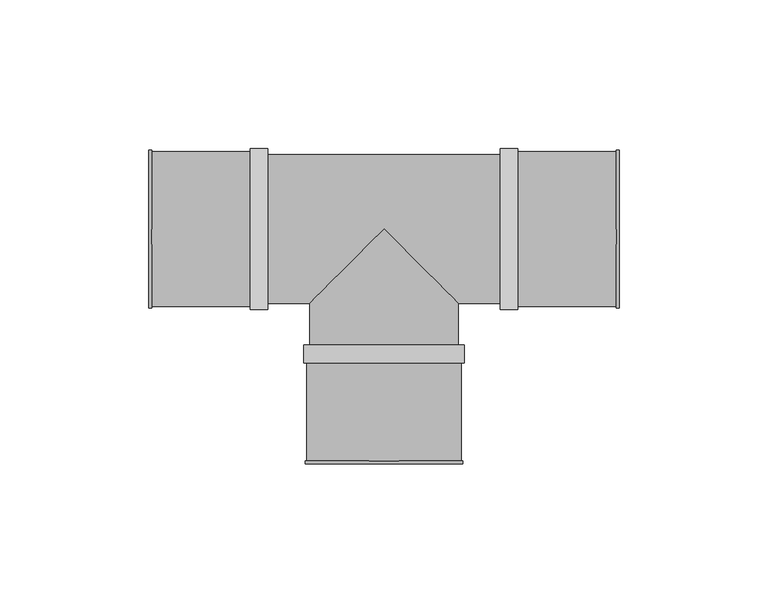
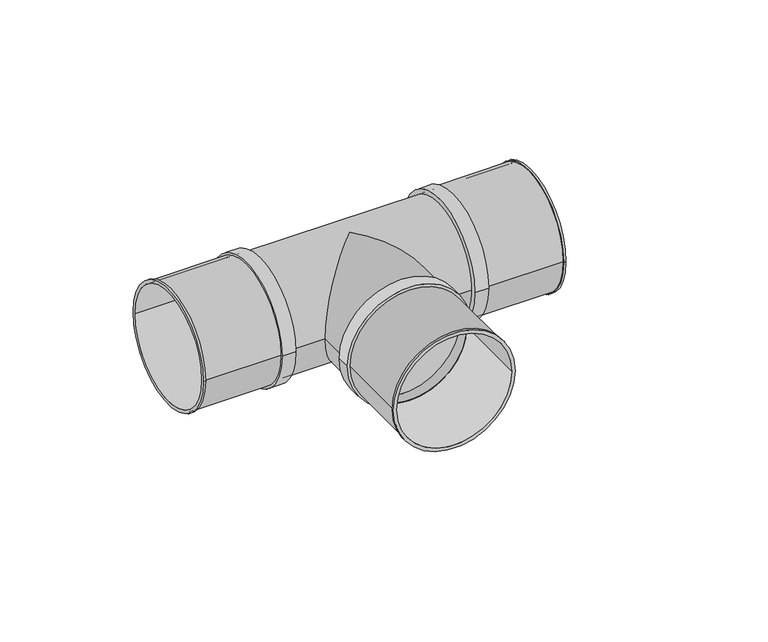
"""IFC4 building model written with IfcOpenShell, lengths in millimetres: pipe fitting geometry, SuperPipe_Tee_SPressPlus : SuperPipe_Tee_SPressPlus."""

from ifc_helpers import new_model, si_unit, point, frame, origin, origin_2d, place, context, project, spatial, polyline, circle_curve, ellipse_curve, trimmed, segment, composite_curve, outline, extrude, source, transform, mapped, element, save
from ifc_brep_helpers import plane_surface, cylinder_surface, revolved_surface, advanced_brep


def pipe_fitting_36832e7d(model_context):
    return source(origin(), model_context, "Body", "SolidModel", [
        advanced_brep(
        [(-79.0, -26.5, 0.0), (-79.0, 26.5, 0.0), (-79.0, -25.0, 0.0), (-79.0, 25.0, 0.0), (-45.0, -26.0, 0.0), (-45.0, 26.0, 0.0), (-45.0, -25.0, 0.0), (-45.0, 25.0, 0.0), (-78.0, -25.0, 0.0), (-78.0, 25.0, 0.0), (-78.0, 26.0, 0.0), (-78.0, -26.0, 0.0), (-78.0, -26.5, 0.0), (-78.0, 26.5, 0.0)],
        [
            (0, 1, circle_curve(frame((-79.0, 0.0, 0.0), z_axis=(-1.0, 0.0, 0.0), x_axis=(0.0, 1.0, 0.0)), 26.5)),
            (1, 0, circle_curve(frame((-79.0, 0.0, 0.0), z_axis=(-1.0, 0.0, 0.0), x_axis=(0.0, 1.0, 0.0)), 26.5)),
            (2, 3, circle_curve(frame((-79.0, 0.0, 0.0), z_axis=(1.0, 0.0, 0.0), x_axis=(0.0, 1.0, 0.0)), 25.0)),
            (3, 2, circle_curve(frame((-79.0, 0.0, 0.0), z_axis=(1.0, 0.0, 0.0), x_axis=(0.0, 1.0, 0.0)), 25.0)),
            (4, 5, circle_curve(frame((-45.0, 0.0, 0.0), z_axis=(1.0, 0.0, 0.0), x_axis=(0.0, 1.0, 0.0)), 26.0)),
            (5, 4, circle_curve(frame((-45.0, 0.0, 0.0), z_axis=(1.0, 0.0, 0.0), x_axis=(0.0, 1.0, 0.0)), 26.0)),
            (6, 7, circle_curve(frame((-45.0, 0.0, 0.0), z_axis=(-1.0, 0.0, 0.0), x_axis=(0.0, 1.0, 0.0)), 25.0)),
            (7, 6, circle_curve(frame((-45.0, 0.0, 0.0), z_axis=(-1.0, 0.0, 0.0), x_axis=(0.0, 1.0, 0.0)), 25.0)),
            (2, 8),
            (8, 6),
            (7, 9),
            (9, 3),
            (5, 10),
            (10, 11, circle_curve(frame((-78.0, 0.0, 0.0), z_axis=(1.0, 0.0, 0.0), x_axis=(0.0, 1.0, 0.0)), 26.0)),
            (11, 4),
            (11, 10, circle_curve(frame((-78.0, 0.0, 0.0), z_axis=(1.0, 0.0, 0.0), x_axis=(0.0, 1.0, 0.0)), 26.0)),
            (12, 13, circle_curve(frame((-78.0, 0.0, 0.0), z_axis=(1.0, 0.0, 0.0), x_axis=(0.0, 1.0, 0.0)), 26.5)),
            (13, 12, circle_curve(frame((-78.0, 0.0, 0.0), z_axis=(1.0, 0.0, 0.0), x_axis=(0.0, 1.0, 0.0)), 26.5)),
            (0, 12),
            (13, 1),
        ],
        [
            plane_surface(frame((-79.0, 0.0, 0.0), z_axis=(-1.0, 0.0, 0.0), x_axis=(0.0, 0.0, 1.0))),
            plane_surface(frame((-45.0, 0.0, 0.0), z_axis=(1.0, 0.0, 0.0), x_axis=(0.0, 0.0, 1.0))),
            revolved_surface(polyline([(-45.0, 25.0, 0.0), (-79.0, 25.0, 0.0)]), (-79.0, 0.0, 0.0), (1.0, 0.0, 0.0)),
            cylinder_surface(frame((-79.0, 0.0, 0.0), z_axis=(-1.0, 0.0, 0.0), x_axis=(0.0, 1.0, 0.0)), 26.0),
            plane_surface(frame((-78.0, 0.0, 0.0), z_axis=(1.0, 0.0, 0.0), x_axis=(0.0, 0.0, 1.0))),
            cylinder_surface(frame((-79.0, 0.0, 0.0), z_axis=(-1.0, 0.0, 0.0), x_axis=(0.0, 1.0, 0.0)), 26.5),
        ],
        [
            (0, [[1, 2], [3, 4]]),
            (1, [[5, 6], [7, 8]]),
            (2, [[-3, 9, 10, -8, 11, 12]]),
            (2, [[-4, -12, -11, -7, -10, -9]]),
            (3, [[-6, 13, 14, 15]]),
            (3, [[-5, -15, 16, -13]]),
            (4, [[17, 18], [-14, -16]]),
            (5, [[-1, 19, -18, 20]]),
            (5, [[-2, -20, -17, -19]]),
        ],
    ),
        advanced_brep(
        [(45.0, -26.0, 0.0), (45.0, 26.0, 0.0), (45.0, -25.0, 0.0), (45.0, 25.0, 0.0), (79.0, -26.5, 0.0), (79.0, 26.5, 0.0), (79.0, -25.0, 0.0), (79.0, 25.0, 0.0), (78.0, -26.0, 0.0), (78.0, 26.0, 0.0), (78.0, -25.0, 0.0), (78.0, 25.0, 0.0), (78.0, -26.5, 0.0), (78.0, 26.5, 0.0)],
        [
            (0, 1, circle_curve(frame((45.0, 0.0, 0.0), z_axis=(-1.0, 0.0, 0.0), x_axis=(0.0, 1.0, 0.0)), 26.0)),
            (1, 0, circle_curve(frame((45.0, 0.0, 0.0), z_axis=(-1.0, 0.0, 0.0), x_axis=(0.0, 1.0, 0.0)), 26.0)),
            (2, 3, circle_curve(frame((45.0, 0.0, 0.0), z_axis=(1.0, 0.0, 0.0), x_axis=(0.0, 1.0, 0.0)), 25.0)),
            (3, 2, circle_curve(frame((45.0, 0.0, 0.0), z_axis=(1.0, 0.0, 0.0), x_axis=(0.0, 1.0, 0.0)), 25.0)),
            (4, 5, circle_curve(frame((79.0, 0.0, 0.0), z_axis=(1.0, 0.0, 0.0), x_axis=(0.0, 1.0, 0.0)), 26.5)),
            (5, 4, circle_curve(frame((79.0, 0.0, 0.0), z_axis=(1.0, 0.0, 0.0), x_axis=(0.0, 1.0, 0.0)), 26.5)),
            (6, 7, circle_curve(frame((79.0, 0.0, 0.0), z_axis=(-1.0, 0.0, 0.0), x_axis=(0.0, 1.0, 0.0)), 25.0)),
            (7, 6, circle_curve(frame((79.0, 0.0, 0.0), z_axis=(-1.0, 0.0, 0.0), x_axis=(0.0, 1.0, 0.0)), 25.0)),
            (0, 8),
            (8, 9, circle_curve(frame((78.0, 0.0, 0.0), z_axis=(-1.0, 0.0, 0.0), x_axis=(0.0, 1.0, 0.0)), 26.0)),
            (9, 1),
            (9, 8, circle_curve(frame((78.0, 0.0, 0.0), z_axis=(-1.0, 0.0, 0.0), x_axis=(0.0, 1.0, 0.0)), 26.0)),
            (2, 10),
            (10, 6),
            (7, 11),
            (11, 3),
            (12, 13, circle_curve(frame((78.0, 0.0, 0.0), z_axis=(-1.0, 0.0, 0.0), x_axis=(0.0, 1.0, 0.0)), 26.5)),
            (13, 12, circle_curve(frame((78.0, 0.0, 0.0), z_axis=(-1.0, 0.0, 0.0), x_axis=(0.0, 1.0, 0.0)), 26.5)),
            (12, 4),
            (5, 13),
        ],
        [
            plane_surface(frame((45.0, 0.0, 0.0), z_axis=(-1.0, 0.0, 0.0), x_axis=(0.0, 0.0, 1.0))),
            plane_surface(frame((79.0, 0.0, 0.0), z_axis=(1.0, 0.0, 0.0), x_axis=(0.0, 0.0, 1.0))),
            cylinder_surface(frame((45.0, 0.0, 0.0), z_axis=(-1.0, 0.0, 0.0), x_axis=(0.0, 1.0, 0.0)), 26.0),
            revolved_surface(polyline([(79.0, 25.0, 0.0), (45.0, 25.0, 0.0)]), (45.0, 0.0, 0.0), (1.0, 0.0, 0.0)),
            plane_surface(frame((78.0, 0.0, 0.0), z_axis=(-1.0, 0.0, 0.0), x_axis=(0.0, 0.0, 1.0))),
            cylinder_surface(frame((78.0, 0.0, 0.0), z_axis=(-1.0, 0.0, 0.0), x_axis=(0.0, 1.0, 0.0)), 26.5),
        ],
        [
            (0, [[1, 2], [3, 4]]),
            (1, [[5, 6], [7, 8]]),
            (2, [[-1, 9, 10, 11]]),
            (2, [[-2, -11, 12, -9]]),
            (3, [[-3, 13, 14, -8, 15, 16]]),
            (3, [[-4, -16, -15, -7, -14, -13]]),
            (4, [[17, 18], [-10, -12]]),
            (5, [[-17, 19, -6, 20]]),
            (5, [[-18, -20, -5, -19]]),
        ],
    ),
        advanced_brep(
        [(-27.0, -45.0, 0.0), (27.0, -45.0, 0.0), (-25.0, -45.0, 0.0), (25.0, -45.0, 0.0), (-27.0, -39.0, 0.0), (27.0, -39.0, 0.0), (-25.0, -40.0, 0.0), (25.0, -40.0, 0.0)],
        [
            (0, 1, circle_curve(frame((0.0, -45.0, 0.0), z_axis=(0.0, -1.0, 0.0), x_axis=(0.0, 0.0, -1.0)), 27.0)),
            (1, 0, circle_curve(frame((0.0, -45.0, 0.0), z_axis=(0.0, -1.0, 0.0), x_axis=(0.0, 0.0, 1.0)), 27.0)),
            (2, 3, circle_curve(frame((0.0, -45.0, 0.0), z_axis=(0.0, 1.0, 0.0), x_axis=(1.0, 0.0, 0.0)), 25.0)),
            (3, 2, circle_curve(frame((0.0, -45.0, 0.0), z_axis=(0.0, 1.0, 0.0), x_axis=(1.0, 0.0, 0.0)), 25.0)),
            (4, 5, circle_curve(frame((0.0, -39.0, 0.0), z_axis=(0.0, 1.0, 0.0), x_axis=(0.0, 0.0, 1.0)), 27.0)),
            (5, 4, circle_curve(frame((0.0, -39.0, 0.0), z_axis=(0.0, 1.0, 0.0), x_axis=(0.0, 0.0, -1.0)), 27.0)),
            (0, 4),
            (5, 1),
            (6, 7, circle_curve(frame((0.0, -40.0, 0.0), z_axis=(0.0, -1.0, 0.0), x_axis=(1.0, 0.0, 0.0)), 25.0)),
            (7, 6, circle_curve(frame((0.0, -40.0, 0.0), z_axis=(0.0, -1.0, 0.0), x_axis=(1.0, 0.0, 0.0)), 25.0)),
            (7, 3),
            (2, 6),
        ],
        [
            plane_surface(frame((0.0, -45.0, 0.0), z_axis=(0.0, -1.0, 0.0), x_axis=(0.0, 0.0, -1.0))),
            plane_surface(frame((0.0, -39.0, 0.0), z_axis=(0.0, 1.0, 0.0), x_axis=(0.0, 0.0, -1.0))),
            cylinder_surface(frame((0.0, -39.0, 0.0), z_axis=(0.0, -1.0, 0.0), x_axis=(0.0, 0.0, -1.0)), 27.0),
            cylinder_surface(frame((0.0, -39.0, 0.0), z_axis=(0.0, -1.0, 0.0), x_axis=(0.0, 0.0, 1.0)), 27.0),
            plane_surface(frame((0.0, -40.0, 0.0), z_axis=(0.0, -1.0, 0.0), x_axis=(0.0, 0.0, 1.0))),
            revolved_surface(polyline([(25.0, -40.0, 0.0), (25.0, -45.0, 0.0)]), (0.0, -40.0, 0.0), (0.0, 1.0, 0.0)),
        ],
        [
            (0, [[1, 2], [3, 4]]),
            (1, [[5, 6]]),
            (2, [[-1, 7, -6, 8]]),
            (3, [[-2, -8, -5, -7]]),
            (4, [[9, 10]]),
            (5, [[-10, 11, -3, 12]]),
            (5, [[-9, -12, -4, -11]]),
        ],
    ),
        advanced_brep(
        [(45.0, -27.0, 0.0), (45.0, 27.0, 0.0), (45.0, 25.0, 0.0), (45.0, -25.0, 0.0), (39.0, -27.0, 0.0), (39.0, 27.0, 0.0), (40.0, -25.0, 0.0), (40.0, 25.0, 0.0)],
        [
            (0, 1, circle_curve(frame((45.0, 0.0, 0.0), z_axis=(1.0, 0.0, 0.0), x_axis=(0.0, 0.0, -1.0)), 27.0)),
            (1, 0, circle_curve(frame((45.0, 0.0, 0.0), z_axis=(1.0, 0.0, 0.0), x_axis=(0.0, 0.0, 1.0)), 27.0)),
            (2, 3, circle_curve(frame((45.0, 0.0, 0.0), z_axis=(-1.0, 0.0, 0.0), x_axis=(0.0, 1.0, 0.0)), 25.0)),
            (3, 2, circle_curve(frame((45.0, 0.0, 0.0), z_axis=(-1.0, 0.0, 0.0), x_axis=(0.0, 1.0, 0.0)), 25.0)),
            (4, 5, circle_curve(frame((39.0, 0.0, 0.0), z_axis=(-1.0, 0.0, 0.0), x_axis=(0.0, 0.0, 1.0)), 27.0)),
            (5, 4, circle_curve(frame((39.0, 0.0, 0.0), z_axis=(-1.0, 0.0, 0.0), x_axis=(0.0, 0.0, -1.0)), 27.0)),
            (0, 4),
            (5, 1),
            (6, 7, circle_curve(frame((40.0, 0.0, 0.0), z_axis=(1.0, 0.0, 0.0), x_axis=(0.0, 1.0, 0.0)), 25.0)),
            (7, 6, circle_curve(frame((40.0, 0.0, 0.0), z_axis=(1.0, 0.0, 0.0), x_axis=(0.0, 1.0, 0.0)), 25.0)),
            (6, 3),
            (2, 7),
        ],
        [
            plane_surface(frame((45.0, 0.0, 0.0), z_axis=(1.0, 0.0, 0.0), x_axis=(0.0, 0.0, -1.0))),
            plane_surface(frame((39.0, 0.0, 0.0), z_axis=(-1.0, 0.0, 0.0), x_axis=(0.0, 0.0, -1.0))),
            cylinder_surface(frame((39.0, 0.0, 0.0), z_axis=(1.0, 0.0, 0.0), x_axis=(0.0, 0.0, -1.0)), 27.0),
            cylinder_surface(frame((39.0, 0.0, 0.0), z_axis=(1.0, 0.0, 0.0), x_axis=(0.0, 0.0, 1.0)), 27.0),
            plane_surface(frame((40.0, 25.0, 0.0), z_axis=(1.0, 0.0, 0.0), x_axis=(0.0, 0.0, -1.0))),
            revolved_surface(polyline([(45.0, 25.0, 0.0), (40.0, 25.0, 0.0)]), (40.0, 0.0, 0.0), (1.0, 0.0, 0.0)),
        ],
        [
            (0, [[1, 2], [3, 4]]),
            (1, [[5, 6]]),
            (2, [[-1, 7, -6, 8]]),
            (3, [[-2, -8, -5, -7]]),
            (4, [[9, 10]]),
            (5, [[-9, 11, -3, 12]]),
            (5, [[-10, -12, -4, -11]]),
        ],
    ),
        advanced_brep(
        [(-39.0, -27.0, 0.0), (-39.0, 27.0, 0.0), (-45.0, -27.0, 0.0), (-45.0, 27.0, 0.0), (-45.0, -25.0, 0.0), (-45.0, 25.0, 0.0), (-40.0, -25.0, 0.0), (-40.0, 25.0, 0.0)],
        [
            (0, 1, circle_curve(frame((-39.0, 0.0, 0.0), z_axis=(1.0, 0.0, 0.0), x_axis=(0.0, 0.0, -1.0)), 27.0)),
            (1, 0, circle_curve(frame((-39.0, 0.0, 0.0), z_axis=(1.0, 0.0, 0.0), x_axis=(0.0, 0.0, 1.0)), 27.0)),
            (2, 3, circle_curve(frame((-45.0, 0.0, 0.0), z_axis=(-1.0, 0.0, 0.0), x_axis=(0.0, 0.0, 1.0)), 27.0)),
            (3, 2, circle_curve(frame((-45.0, 0.0, 0.0), z_axis=(-1.0, 0.0, 0.0), x_axis=(0.0, 0.0, -1.0)), 27.0)),
            (4, 5, circle_curve(frame((-45.0, 0.0, 0.0), z_axis=(1.0, 0.0, 0.0), x_axis=(0.0, 1.0, 0.0)), 25.0)),
            (5, 4, circle_curve(frame((-45.0, 0.0, 0.0), z_axis=(1.0, 0.0, 0.0), x_axis=(0.0, 1.0, 0.0)), 25.0)),
            (0, 2),
            (3, 1),
            (6, 7, circle_curve(frame((-40.0, 0.0, 0.0), z_axis=(-1.0, 0.0, 0.0), x_axis=(0.0, 1.0, 0.0)), 25.0)),
            (7, 6, circle_curve(frame((-40.0, 0.0, 0.0), z_axis=(-1.0, 0.0, 0.0), x_axis=(0.0, 1.0, 0.0)), 25.0)),
            (7, 5),
            (4, 6),
        ],
        [
            plane_surface(frame((-39.0, 0.0, 0.0), z_axis=(1.0, 0.0, 0.0), x_axis=(0.0, 0.0, -1.0))),
            plane_surface(frame((-45.0, 0.0, 0.0), z_axis=(-1.0, 0.0, 0.0), x_axis=(0.0, 0.0, -1.0))),
            cylinder_surface(frame((-45.0, 0.0, 0.0), z_axis=(1.0, 0.0, 0.0), x_axis=(0.0, 0.0, -1.0)), 27.0),
            cylinder_surface(frame((-45.0, 0.0, 0.0), z_axis=(1.0, 0.0, 0.0), x_axis=(0.0, 0.0, 1.0)), 27.0),
            plane_surface(frame((-40.0, 25.0, 0.0), z_axis=(-1.0, 0.0, 0.0), x_axis=(0.0, 0.0, 1.0))),
            revolved_surface(polyline([(-40.0, 25.0, 0.0), (-45.0, 25.0, 0.0)]), (-45.0, 0.0, 0.0), (1.0, 0.0, 0.0)),
        ],
        [
            (0, [[1, 2]]),
            (1, [[3, 4], [5, 6]]),
            (2, [[-1, 7, -4, 8]]),
            (3, [[-2, -8, -3, -7]]),
            (4, [[9, 10]]),
            (5, [[-10, 11, -5, 12]]),
            (5, [[-9, -12, -6, -11]]),
        ],
    ),
        advanced_brep(
        [(-25.0, -39.0, 0.0), (25.0, -39.0, 0.0), (25.0, -25.0, 0.0), (0.0, 0.0, 25.0), (-25.0, -25.0, 0.0), (0.0, 0.0, -25.0)],
        [
            (0, 1, circle_curve(frame((0.0, -39.0, 0.0), z_axis=(0.0, -1.0, 0.0), x_axis=(1.0, 0.0, 0.0)), 25.0)),
            (1, 0, circle_curve(frame((0.0, -39.0, 0.0), z_axis=(0.0, -1.0, 0.0), x_axis=(1.0, 0.0, 0.0)), 25.0)),
            (1, 2),
            (2, 3, ellipse_curve(frame((0.0, 0.0, 0.0), z_axis=(-0.7071067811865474, -0.7071067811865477, 0.0), x_axis=(-0.7071067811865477, 0.7071067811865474, 0.0)), 35.3553391, 25.0)),
            (3, 4, ellipse_curve(frame((0.0, 0.0, 0.0), z_axis=(0.7071067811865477, -0.7071067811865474, 0.0), x_axis=(0.7071067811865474, 0.7071067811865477, 0.0)), 35.3553391, 25.0)),
            (4, 0),
            (4, 5, ellipse_curve(frame((0.0, 0.0, 0.0), z_axis=(0.7071067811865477, -0.7071067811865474, 0.0), x_axis=(0.7071067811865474, 0.7071067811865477, 0.0)), 35.3553391, 25.0)),
            (5, 2, ellipse_curve(frame((0.0, 0.0, 0.0), z_axis=(-0.7071067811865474, -0.7071067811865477, 0.0), x_axis=(-0.7071067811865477, 0.7071067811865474, 0.0)), 35.3553391, 25.0)),
            (2, 4),
        ],
        [
            plane_surface(frame((0.0, -39.0, 0.0), z_axis=(0.0, -1.0, 0.0), x_axis=(0.0, 0.0, 1.0))),
            cylinder_surface(frame((0.0, 0.0, 0.0), z_axis=(0.0, 1.0, 0.0), x_axis=(1.0, 0.0, 0.0)), 25.0),
            revolved_surface(polyline([(-25.0000000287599, 25.0, 0.0), (25.0000000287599, 25.0, 0.0)]), (-135.8358145, 0.0, 0.0), (-1.0, 0.0, 0.0)),
        ],
        [
            (0, [[1, 2]]),
            (1, [[-2, 3, 4, 5, 6]]),
            (1, [[-1, -6, 7, 8, -3]]),
            (2, [[9, -5, -4]]),
            (2, [[-9, -8, -7]]),
        ],
    ),
        advanced_brep(
        [(-26.0, -45.0, 0.0), (26.0, -45.0, 0.0), (-25.0, -45.0, 0.0), (25.0, -45.0, 0.0), (-26.5, -79.0, 0.0), (26.5, -79.0, 0.0), (-25.0, -79.0, 0.0), (25.0, -79.0, 0.0), (-26.0, -78.0, 0.0), (26.0, -78.0, 0.0), (-26.5, -78.0, 0.0), (26.5, -78.0, 0.0)],
        [
            (0, 1, circle_curve(frame((0.0, -45.0, 0.0), z_axis=(0.0, 1.0, 0.0), x_axis=(1.0, 0.0, 0.0)), 26.0)),
            (1, 0, circle_curve(frame((0.0, -45.0, 0.0), z_axis=(0.0, 1.0, 0.0), x_axis=(1.0, 0.0, 0.0)), 26.0)),
            (2, 3, circle_curve(frame((0.0, -45.0, 0.0), z_axis=(0.0, -1.0, 0.0), x_axis=(1.0, 0.0, 0.0)), 25.0)),
            (3, 2, circle_curve(frame((0.0, -45.0, 0.0), z_axis=(0.0, -1.0, 0.0), x_axis=(1.0, 0.0, 0.0)), 25.0)),
            (4, 5, circle_curve(frame((0.0, -79.0, 0.0), z_axis=(0.0, -1.0, 0.0), x_axis=(1.0, 0.0, 0.0)), 26.5)),
            (5, 4, circle_curve(frame((0.0, -79.0, 0.0), z_axis=(0.0, -1.0, 0.0), x_axis=(1.0, 0.0, 0.0)), 26.5)),
            (6, 7, circle_curve(frame((0.0, -79.0, 0.0), z_axis=(0.0, 1.0, 0.0), x_axis=(1.0, 0.0, 0.0)), 25.0)),
            (7, 6, circle_curve(frame((0.0, -79.0, 0.0), z_axis=(0.0, 1.0, 0.0), x_axis=(1.0, 0.0, 0.0)), 25.0)),
            (2, 6),
            (7, 3),
            (0, 8),
            (8, 9, circle_curve(frame((0.0, -78.0, 0.0), z_axis=(0.0, 1.0, 0.0), x_axis=(1.0, 0.0, 0.0)), 26.0)),
            (9, 1),
            (9, 8, circle_curve(frame((0.0, -78.0, 0.0), z_axis=(0.0, 1.0, 0.0), x_axis=(1.0, 0.0, 0.0)), 26.0)),
            (10, 11, circle_curve(frame((0.0, -78.0, 0.0), z_axis=(0.0, 1.0, 0.0), x_axis=(1.0, 0.0, 0.0)), 26.5)),
            (11, 10, circle_curve(frame((0.0, -78.0, 0.0), z_axis=(0.0, 1.0, 0.0), x_axis=(1.0, 0.0, 0.0)), 26.5)),
            (10, 4),
            (5, 11),
        ],
        [
            plane_surface(frame((0.0, -45.0, 0.0), z_axis=(0.0, 1.0, 0.0), x_axis=(0.0, 0.0, 1.0))),
            plane_surface(frame((0.0, -79.0, 0.0), z_axis=(0.0, -1.0, 0.0), x_axis=(0.0, 0.0, 1.0))),
            revolved_surface(polyline([(25.0, -79.0, 0.0), (25.0, -45.0, 0.0)]), (0.0, -45.0, 0.0), (0.0, -1.0, 0.0)),
            cylinder_surface(frame((0.0, -45.0, 0.0), z_axis=(0.0, 1.0, 0.0), x_axis=(1.0, 0.0, 0.0)), 26.0),
            plane_surface(frame((0.0, -78.0, 0.0), z_axis=(0.0, 1.0, 0.0), x_axis=(0.0, 0.0, 1.0))),
            cylinder_surface(frame((0.0, -78.0, 0.0), z_axis=(0.0, 1.0, 0.0), x_axis=(1.0, 0.0, 0.0)), 26.5),
        ],
        [
            (0, [[1, 2], [3, 4]]),
            (1, [[5, 6], [7, 8]]),
            (2, [[-3, 9, -8, 10]]),
            (2, [[-4, -10, -7, -9]]),
            (3, [[-1, 11, 12, 13]]),
            (3, [[-2, -13, 14, -11]]),
            (4, [[15, 16], [-12, -14]]),
            (5, [[-15, 17, -6, 18]]),
            (5, [[-16, -18, -5, -17]]),
        ],
    ),
        extrude(outline(composite_curve([segment(trimmed(circle_curve(origin_2d(), 25.0), [point((-25.0, 0.0))], [point((25.0, 0.0))], False, "CARTESIAN"), True, "CONTINUOUS"), segment(trimmed(circle_curve(origin_2d(), 25.0), [point((25.0, 0.0))], [point((-25.0, 0.0))], False, "CARTESIAN"), True, "CONTINUOUS")], self_intersect=False)), frame((-39.0, 0.0, 0.0), z_axis=(1.0, 0.0, 0.0), x_axis=(0.0, 1.0, 0.0)), (0.0, 0.0, 1.0), 78.0),
    ])


if __name__ == "__main__":
    model = new_model("IFC4")
    model_context = context("Model", 3, world=origin())
    ifc_project = project(units=[si_unit("LENGTHUNIT", "METRE", prefix="MILLI")], contexts=[model_context])
    site = spatial("IfcSite", under=ifc_project)
    building = spatial("IfcBuilding", under=site)
    placement = place(None, origin())
    pipe_fitting_shape = pipe_fitting_36832e7d(model_context)
    element("IfcPipeFitting", 1, ObjectType="SuperPipe_Tee_SPressPlus : SuperPipe_Tee_SPressPlus", at=placement, inside=building, context=model_context, shape_type="MappedRepresentation", body=[
        mapped(pipe_fitting_shape, transform((0.0, 0.0, 0.0), x_axis=(1.0, 0.0, 0.0), y_axis=(0.0, 1.0, 0.0), z_axis=(0.0, 0.0, 1.0))),
    ])
    save(model, "model.ifc")
